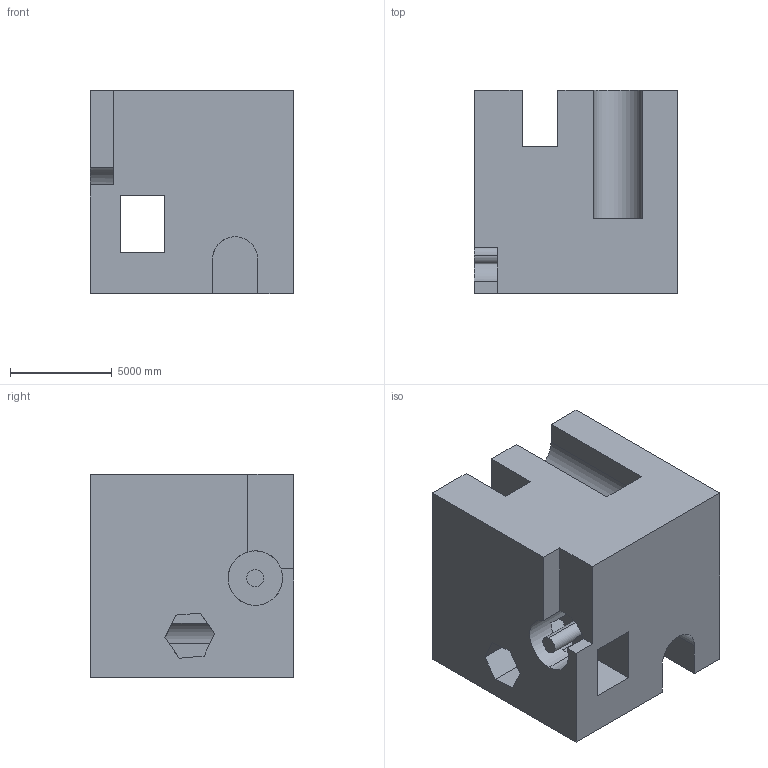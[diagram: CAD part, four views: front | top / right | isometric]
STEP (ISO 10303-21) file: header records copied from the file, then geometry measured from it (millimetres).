
FILE_DESCRIPTION (( 'STEP AP203' ), '1' );
FILE_NAME ('1657.STEP', '2022-08-19T11:26:00', ( 'user' ), ( '' ), 'SwSTEP 2.0', 'SolidWorks 2021', '' );
FILE_SCHEMA (( 'CONFIG_CONTROL_DESIGN' ));
Length unit declared in the file: centimetre
Products named in the file (1): 1657
Bounding box: 10000 x 10000 x 10000 mm (x, y, z)
Volume: 761279938907.4 mm3; surface area: 853725849 mm2
Topology: 1 solids, 1 shells, 46 faces, 147 edges, 98 vertices
Faces by surface type: plane 40, cylinder 6
Entity records: 1706 total; most frequent: CARTESIAN_POINT 304, ORIENTED_EDGE 294, DIRECTION 259, EDGE_CURVE 147, VECTOR 121, LINE 121, VERTEX_POINT 98, AXIS2_PLACEMENT_3D 69
